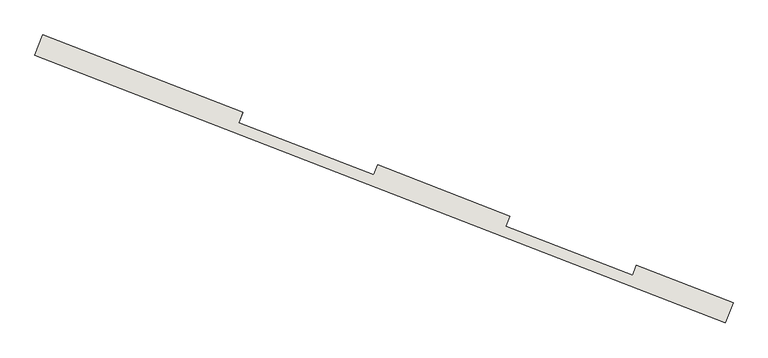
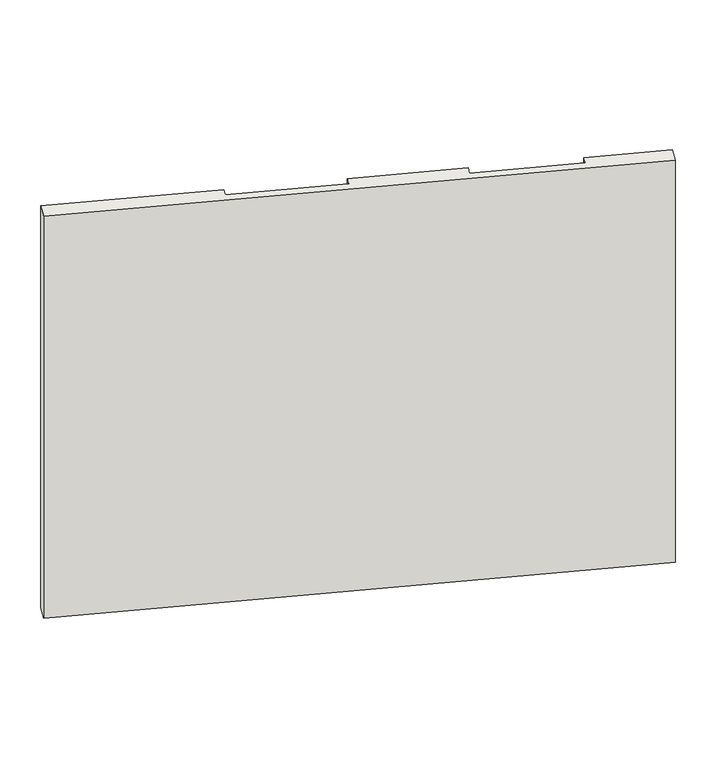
"""IFC4 building model written with IfcOpenShell, lengths in millimetres: wall geometry, kamposite13 : kamposite2."""

from ifc_helpers import new_model, si_unit, origin, place, context, project, spatial, faceted_brep, source, transform, mapped, element, save


def wall_b374dac2(model_context):
    return source(origin(), model_context, "Body", "Brep", [
        faceted_brep([(-250.3748169, 15163.2898207, 22625.4280999), (-250.3748169, 15163.2898207, 20000.0), (2938.093022, 13926.3286894, 20000.0), (2938.093022, 13926.3286894, 22625.4280999), (-214.2063627, 15256.5198745, 20000.0), (-214.2063627, 15256.5198745, 22625.4280999), (709.2620227, 14898.2617529, 22625.4280999), (709.2620227, 14898.2617529, 20961.5733633), (-211.8999426, 15255.6251024, 20961.5733633), (-211.8999426, 15255.6251024, 20911.5733633), (709.2620227, 14898.2617529, 20911.5733633), (709.2620227, 14898.2617529, 20000.0), (2974.2614761, 14019.5587432, 22625.4280999), (2974.2614761, 14019.5587432, 20961.5733633), (2528.06193, 14192.661162, 20961.5733633), (2528.06193, 14192.661162, 22625.4280999), (1333.1327149, 14656.2320897, 22625.4280999), (1942.8904543, 14419.6775245, 22625.4280999), (1942.8904543, 14419.6775245, 20961.5733633), (1333.1327149, 14656.2320897, 20961.5733633), (1333.1327149, 14656.2320897, 20911.5733633), (1942.8904543, 14419.6775245, 20911.5733633), (1942.8904543, 14419.6775245, 20000.0), (1333.1327149, 14656.2320897, 20000.0), (2974.2614761, 14019.5587432, 20911.5733633), (2974.2614761, 14019.5587432, 20000.0), (2528.06193, 14192.661162, 20000.0), (2528.06193, 14192.661162, 20911.5733633), (691.1777956, 14851.646726, 20000.0), (1315.0484878, 14609.6170628, 20000.0), (1924.8062272, 14373.0624976, 20000.0), (2509.977703, 14146.0461351, 20000.0), (2956.1772491, 13972.9437163, 20911.5733633), (2956.1772491, 13972.9437163, 20961.5733633), (2509.977703, 14146.0461351, 22625.4280999), (1924.8062272, 14373.0624976, 22625.4280999), (1315.0484878, 14609.6170628, 22625.4280999), (691.1777956, 14851.646726, 22625.4280999), (-229.9841696, 15209.0100755, 20911.5733633), (-229.9841696, 15209.0100755, 20961.5733633), (691.1777956, 14851.646726, 20961.5733633), (1315.0484878, 14609.6170628, 20961.5733633), (1924.8062272, 14373.0624976, 20961.5733633), (2509.977703, 14146.0461351, 20961.5733633), (2509.977703, 14146.0461351, 20911.5733633), (1924.8062272, 14373.0624976, 20911.5733633), (1315.0484878, 14609.6170628, 20911.5733633), (691.1777956, 14851.646726, 20911.5733633)], [[[0, 1, 2, 3]], [[4, 5, 6, 7, 8, 9, 10, 11]], [[12, 13, 14, 15]], [[16, 17, 18, 19]], [[20, 21, 22, 23]], [[24, 25, 26, 27]], [[1, 0, 5, 4]], [[2, 1, 4, 11, 28, 29, 23, 22, 30, 31, 26, 25]], [[3, 2, 25, 24, 32, 33, 13, 12]], [[0, 3, 12, 15, 34, 35, 17, 16, 36, 37, 6, 5]], [[38, 39, 40, 37, 36, 41, 42, 35, 34, 43, 33, 32, 44, 31, 30, 45, 46, 29, 28, 47]], [[39, 38, 9, 8]], [[21, 20, 46, 45]], [[32, 24, 27, 44]], [[9, 38, 47, 10]], [[19, 18, 42, 41]], [[13, 33, 43, 14]], [[39, 8, 7, 40]], [[35, 42, 18, 17]], [[45, 30, 22, 21]], [[43, 34, 15, 14]], [[31, 44, 27, 26]], [[37, 40, 7, 6]], [[47, 28, 11, 10]], [[41, 36, 16, 19]], [[29, 46, 20, 23]]]),
    ])


if __name__ == "__main__":
    model = new_model("IFC4")
    model_context = context("Model", 3, world=origin())
    ifc_project = project(units=[si_unit("LENGTHUNIT", "METRE", prefix="MILLI")], contexts=[model_context])
    site = spatial("IfcSite", under=ifc_project)
    building = spatial("IfcBuilding", under=site)
    placement = place(None, origin())
    wall_shape = wall_b374dac2(model_context)
    element("IfcWall", 1, ObjectType="kamposite13 : kamposite2", at=placement, inside=building, context=model_context, shape_type="MappedRepresentation", body=[
        mapped(wall_shape, transform((0.0, 0.0, 0.0), x_axis=(1.0, 0.0, 0.0), y_axis=(0.0, 1.0, 0.0), z_axis=(0.0, 0.0, 1.0))),
    ])
    save(model, "model.ifc")
